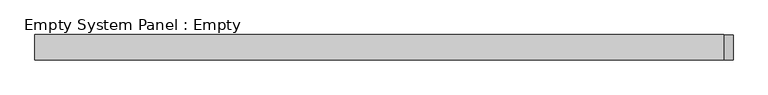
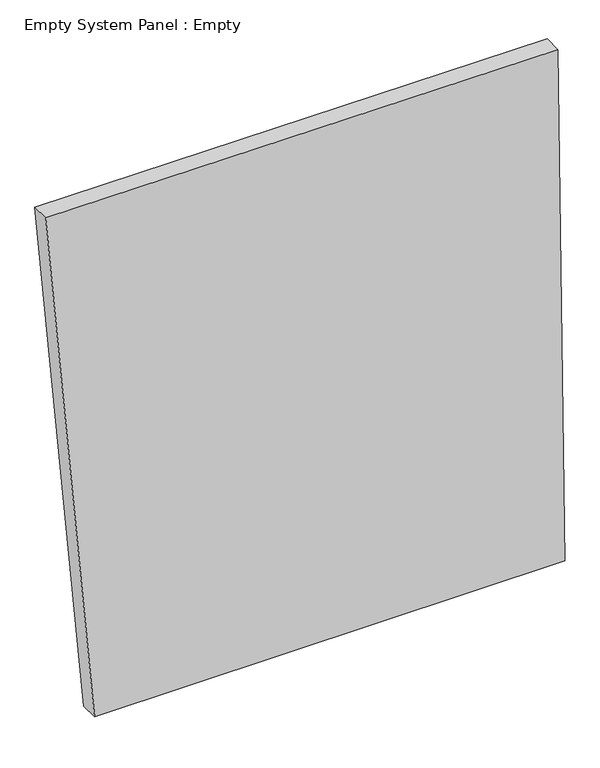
"""IFC4 building model written with IfcOpenShell, lengths in millimetres: plate geometry, Empty System Panel : Empty."""

from ifc_helpers import new_model, si_unit, frame, origin, place, context, project, spatial, polyline, outline, extrude, source, transform, mapped, element, save


def empty_system_panel_empty_6211d9ab(model_context):
    return source(origin(), model_context, "Body", "SweptSolid", [
        extrude(outline(polyline([(0.0, -1145.7099922), (0.0, 1411.5667975), (2949.3479761, 1373.0516775), (2959.3481871, -1411.5667975), (0.0, -1145.7099922)])), frame((0.0, -50.8, 0.0), z_axis=(0.0, 1.0, 0.0), x_axis=(0.0, 0.0, 1.0)), (0.0, 0.0, 1.0), 101.6),
    ])


if __name__ == "__main__":
    model = new_model("IFC4")
    model_context = context("Model", 3, world=origin())
    ifc_project = project(units=[si_unit("LENGTHUNIT", "METRE", prefix="MILLI")], contexts=[model_context])
    site = spatial("IfcSite", under=ifc_project)
    building = spatial("IfcBuilding", under=site)
    placement = place(None, origin())
    empty_system_panel_empty_shape = empty_system_panel_empty_6211d9ab(model_context)
    element("IfcPlate", 1, ObjectType="Empty System Panel : Empty", at=placement, inside=building, context=model_context, shape_type="MappedRepresentation", body=[
        mapped(empty_system_panel_empty_shape, transform((0.0, 0.0, 0.0), x_axis=(1.0, 0.0, 0.0), y_axis=(0.0, 1.0, 0.0), z_axis=(0.0, 0.0, 1.0))),
    ])
    save(model, "model.ifc")
